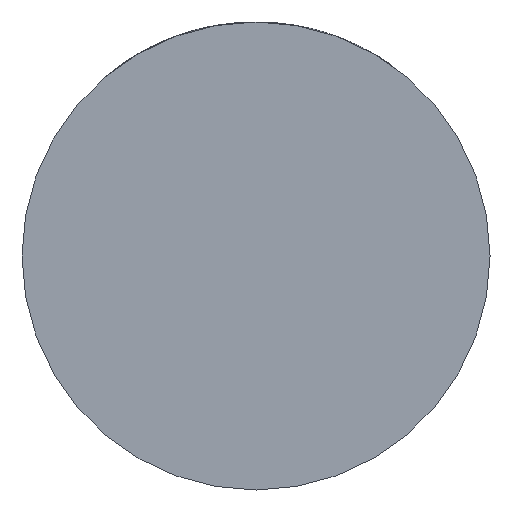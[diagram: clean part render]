
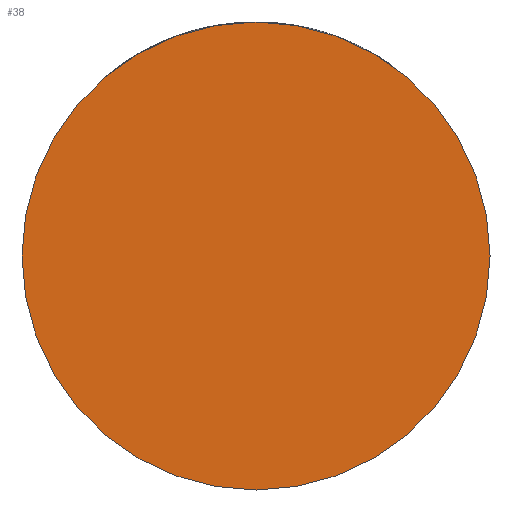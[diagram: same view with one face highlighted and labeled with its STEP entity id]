
A CAD part, front view. The second image highlights one B-rep face of the part: STEP entity #38.
In plain terms, the highlighted planar face has unit normal (0, -1, 0).
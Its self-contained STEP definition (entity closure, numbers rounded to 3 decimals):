
#37 = DIRECTION ( 'NONE',  ( 1., 0., 0. ) ) ;
#38 = ADVANCED_FACE ( 'NONE', ( #4017 ), #875, .T. ) ;
#47 = VERTEX_POINT ( 'NONE', #1541 ) ;
#259 = VERTEX_POINT ( 'NONE', #3538 ) ;
#395 = ORIENTED_EDGE ( 'NONE', *, *, #499, .T. ) ;
#404 = EDGE_LOOP ( 'NONE', ( #395, #3181 ) ) ;
#499 = EDGE_CURVE ( 'NONE', #259, #47, #540, .T. ) ;
#536 = DIRECTION ( 'NONE',  ( 1., 0., 0. ) ) ;
#540 = CIRCLE ( 'NONE', #751, 39. ) ;
#561 = CARTESIAN_POINT ( 'NONE',  ( 0., -36., 0. ) ) ;
#703 = CARTESIAN_POINT ( 'NONE',  ( 0., -36., 0. ) ) ;
#751 = AXIS2_PLACEMENT_3D ( 'NONE', #561, #4377, #1241 ) ;
#771 = EDGE_CURVE ( 'NONE', #47, #259, #823, .T. ) ;
#823 = CIRCLE ( 'NONE', #4405, 39. ) ;
#875 = PLANE ( 'NONE',  #2336 ) ;
#1241 = DIRECTION ( 'NONE',  ( 1., 0., 0. ) ) ;
#1541 = CARTESIAN_POINT ( 'NONE',  ( 39., -36., 0. ) ) ;
#2228 = DIRECTION ( 'NONE',  ( 0., -1., 0. ) ) ;
#2336 = AXIS2_PLACEMENT_3D ( 'NONE', #4332, #2228, #536 ) ;
#2806 = DIRECTION ( 'NONE',  ( 0., -1., 0. ) ) ;
#3181 = ORIENTED_EDGE ( 'NONE', *, *, #771, .T. ) ;
#3538 = CARTESIAN_POINT ( 'NONE',  ( -39., -36., 0. ) ) ;
#4017 = FACE_OUTER_BOUND ( 'NONE', #404, .T. ) ;
#4332 = CARTESIAN_POINT ( 'NONE',  ( 0., -36., 0. ) ) ;
#4377 = DIRECTION ( 'NONE',  ( 0., -1., 0. ) ) ;
#4405 = AXIS2_PLACEMENT_3D ( 'NONE', #703, #2806, #37 ) ;
